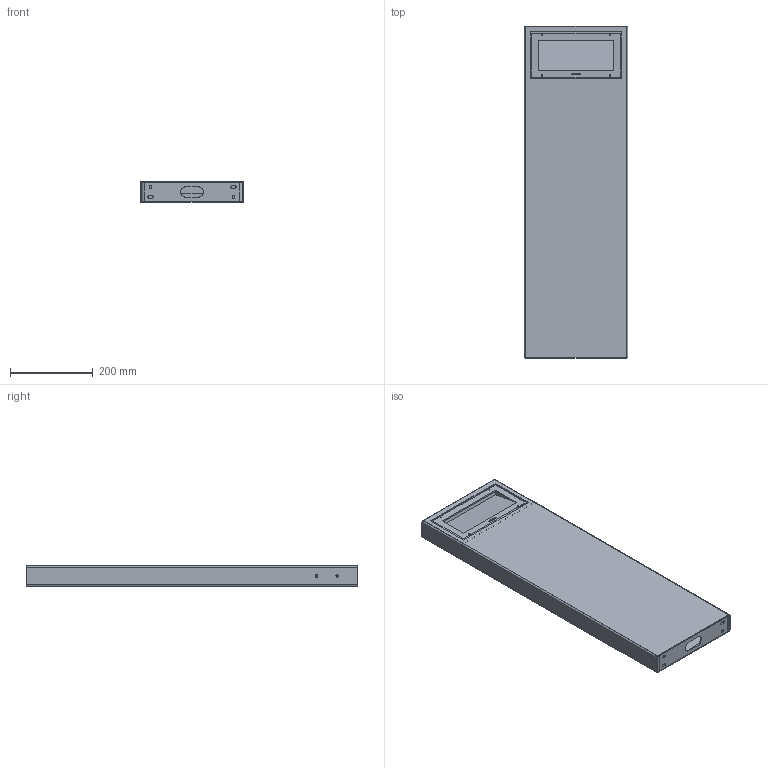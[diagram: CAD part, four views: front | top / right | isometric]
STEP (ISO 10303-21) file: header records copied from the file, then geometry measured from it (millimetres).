
FILE_DESCRIPTION((''),'2;1');
FILE_NAME('PRT0003','2025-06-26T09:08:29',('Piccioli'),(''),'CREO PARAMETRIC BY PTC INC, 2025010','CREO PARAMETRIC BY PTC INC, 2025010','');
FILE_SCHEMA(('CONFIG_CONTROL_DESIGN'));
Length unit declared in the file: millimetre
Products named in the file (1): PRT0003
Bounding box: 250 x 800 x 50 mm (x, y, z)
Surface area: 976532.7 mm2 (no closed solid volume)
Topology: 0 solids, 21 shells, 72 faces, 530 edges, 478 vertices
Faces by surface type: plane 50, cylinder 22
Entity records: 6262 total; most frequent: CARTESIAN_POINT 2599, ORIENTED_EDGE 638, DIRECTION 614, EDGE_CURVE 530, VERTEX_POINT 478, VECTOR 254, LINE 254, AXIS2_PLACEMENT_3D 180
